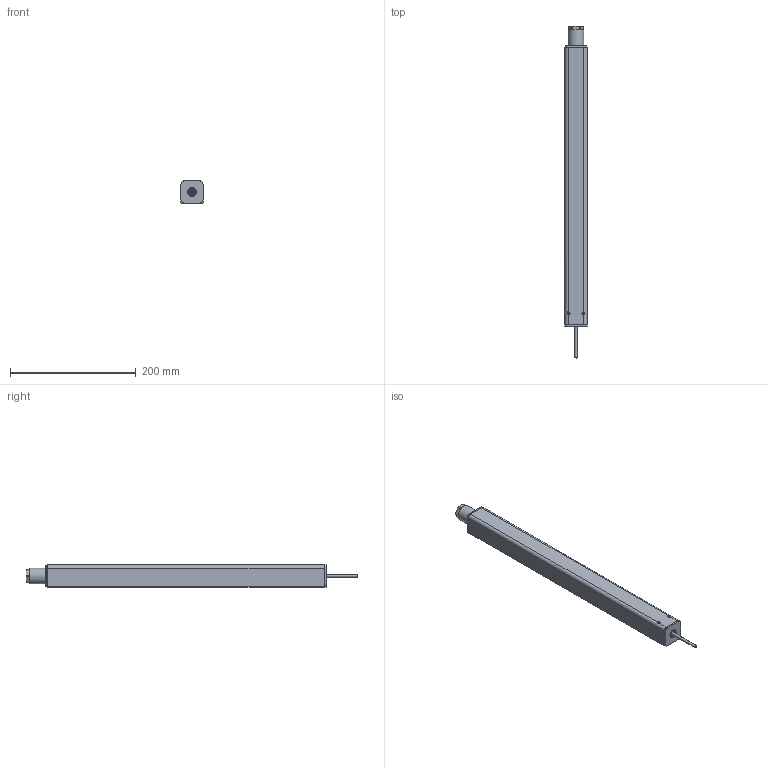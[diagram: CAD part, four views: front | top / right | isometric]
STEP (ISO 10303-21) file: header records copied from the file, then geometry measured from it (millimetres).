
FILE_DESCRIPTION(/* description */ ('Unknown'),/* implementation_level */ '2;1');
FILE_NAME(/* name */ '106.20012 Lineareinheit LA 1820 V_eingefahren',/* time_stamp */ '2017-09-29T13:18:52+02:00',/* author */ ('Unknown'),/* organization */ ('Unknown'),/* preprocessor_version */ 'ST-DEVELOPER v16.7',/* originating_system */ 'DEX',/* authorisation */ $);
FILE_SCHEMA (('AUTOMOTIVE_DESIGN {1 0 10303 214 3 1 1}'));
Products named in the file (11): 106.20012; 119.00003; 142.00014; 125.00021; 115.00008; 115.00125; 142.00234; 122.00018; 125.00051; 123.00003; 113.00002_70mm
Assembly tree (11 placements, depth 2):
  106.20012
    119.00003
    142.00014  x2
    125.00021
    115.00008
    115.00125
    142.00234
    122.00018
    125.00051
    123.00003
    113.00002_70mm
Bounding box: 35 x 527.5 x 35 mm (x, y, z)
Volume: 307311.8 mm3; surface area: 208648.8 mm2
Topology: 9 solids, 9 shells, 798 faces, 1872 edges, 1117 vertices
Faces by surface type: cylinder 276, bspline 224, plane 213, cone 45, torus 28, sphere 12
Full cylindrical faces by diameter (mm): 2.2 x1, 4 x7, 4.1 x1, 4.134 x4, 6.647 x1, 8 x2, 8.376 x1, 12 x1, 17.3 x1, 19 x1, 20.8 x3, 21 x1, 25 x1, 28.3 x1, 30.4 x1, 30.63 x1
Entity records: 75599 total; most frequent: CARTESIAN_POINT 59292, ORIENTED_EDGE 3512, DIRECTION 2637, EDGE_CURVE 1756, VERTEX_POINT 1070, AXIS2_PLACEMENT_3D 1022, EDGE_LOOP 890, FACE_BOUND 890
